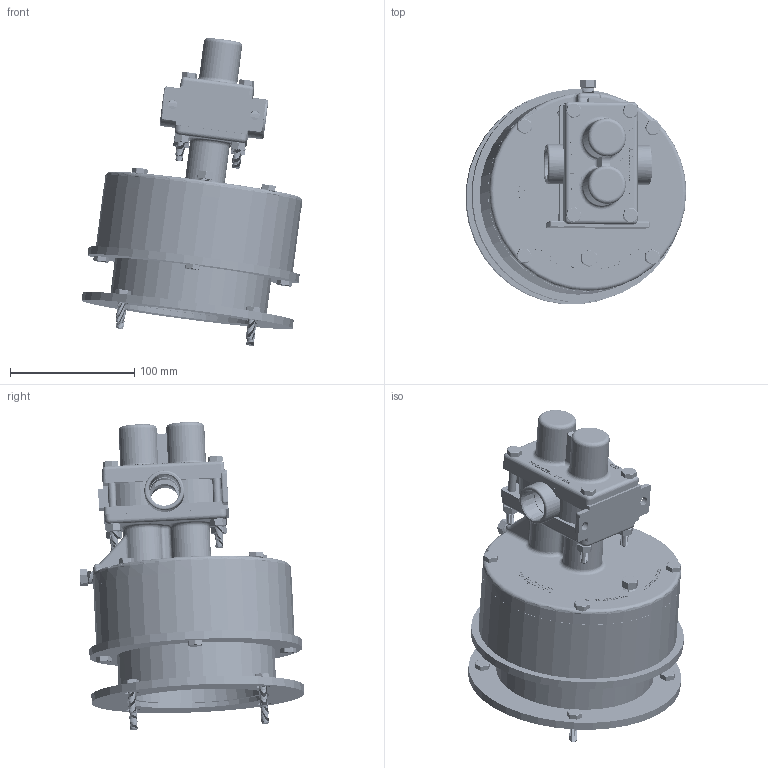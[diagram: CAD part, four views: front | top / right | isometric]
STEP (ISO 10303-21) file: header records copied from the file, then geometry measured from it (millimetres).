
FILE_DESCRIPTION (( 'STEP AP214' ), '1' );
FILE_NAME ('GMC6 FNPT 56-140 NO MOTOR.STEP', '2025-09-24T11:27:33', ( '' ), ( '' ), 'SwSTEP 2.0', 'SolidWorks 2024', '' );
FILE_SCHEMA (( 'AUTOMOTIVE_DESIGN' ));
Length unit declared in the file: inch
Products named in the file (1): GMC6 FNPT 56-140 NO MOTOR
Bounding box: 177.2 x 180.35 x 247.41 mm (x, y, z)
Volume: 936886.8 mm3; surface area: 308845.5 mm2
Topology: 34 solids, 34 shells, 5558 faces, 12697 edges, 7327 vertices
Faces by surface type: cylinder 2089, cone 1947, plane 1036, bspline 366, torus 100, sphere 20
Entity records: 218369 total; most frequent: CARTESIAN_POINT 99400, ORIENTED_EDGE 25358, DIRECTION 23205, EDGE_CURVE 12679, AXIS2_PLACEMENT_3D 8404, VERTEX_POINT 7327, LINE 6397, VECTOR 6397
